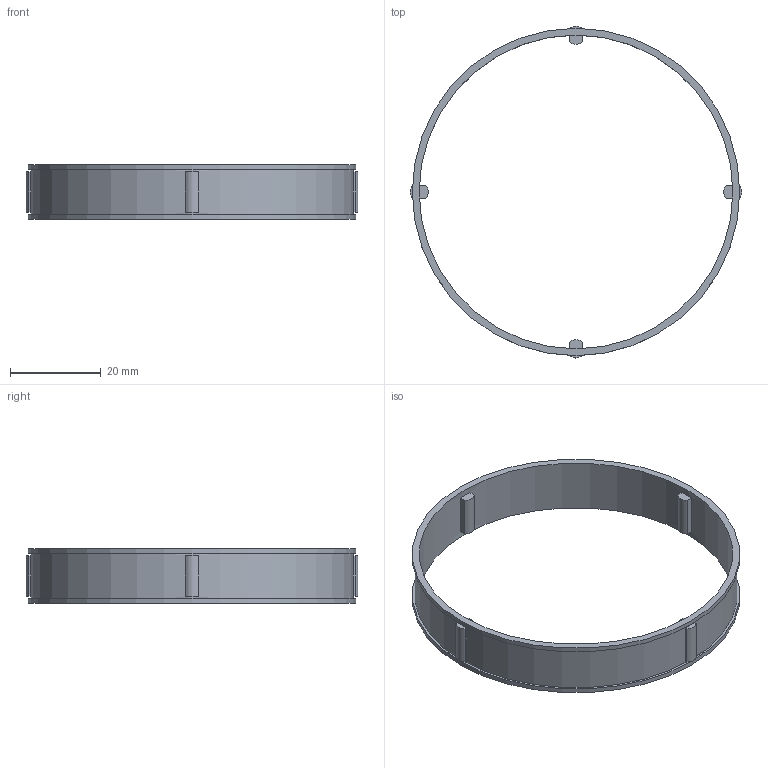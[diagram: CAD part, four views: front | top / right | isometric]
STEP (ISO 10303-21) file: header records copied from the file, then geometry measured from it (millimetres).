
FILE_DESCRIPTION(/* description */ (''),/* implementation_level */ '2;1');
FILE_NAME(/* name */ '300508 FE 473 Z.stp',/* time_stamp */ '2016-11-03T10:41:41+01:00',/* author */ (''),/* organization */ (''),/* preprocessor_version */ 'ST-DEVELOPER v15',/* originating_system */ 'SIEMENS PLM Software NX 8.5',/* authorisation */ '');
FILE_SCHEMA (('CONFIG_CONTROL_DESIGN'));
Length unit declared in the file: millimetre
Products named in the file (1): ATE0000080_01
Bounding box: 73 x 73 x 12 mm (x, y, z)
Volume: 3139.1 mm3; surface area: 6383.6 mm2
Topology: 1 solids, 1 shells, 48 faces, 114 edges, 76 vertices
Faces by surface type: plane 36, cylinder 12
Full cylindrical faces by diameter (mm): 69 x1, 71 x1, 72 x2
Entity records: 1420 total; most frequent: DIRECTION 242, CARTESIAN_POINT 225, ORIENTED_EDGE 208, EDGE_CURVE 104, AXIS2_PLACEMENT_3D 89, VERTEX_POINT 72, LINE 64, VECTOR 64
